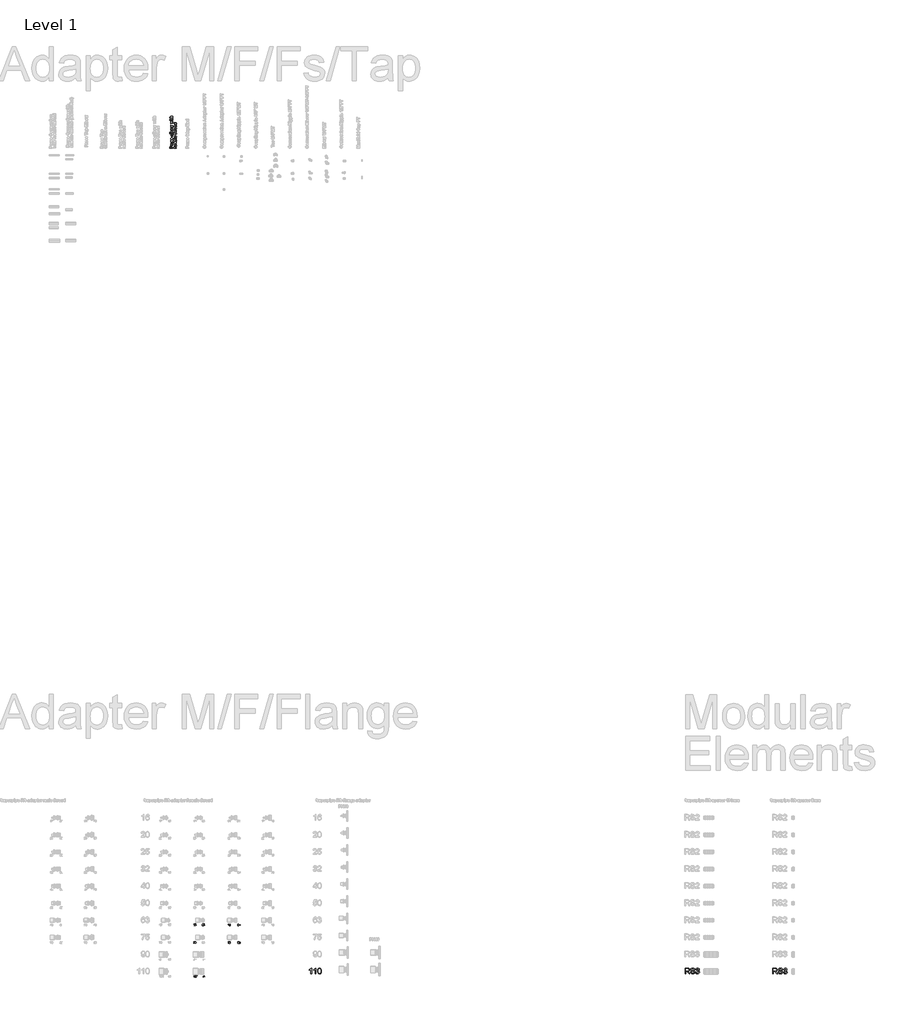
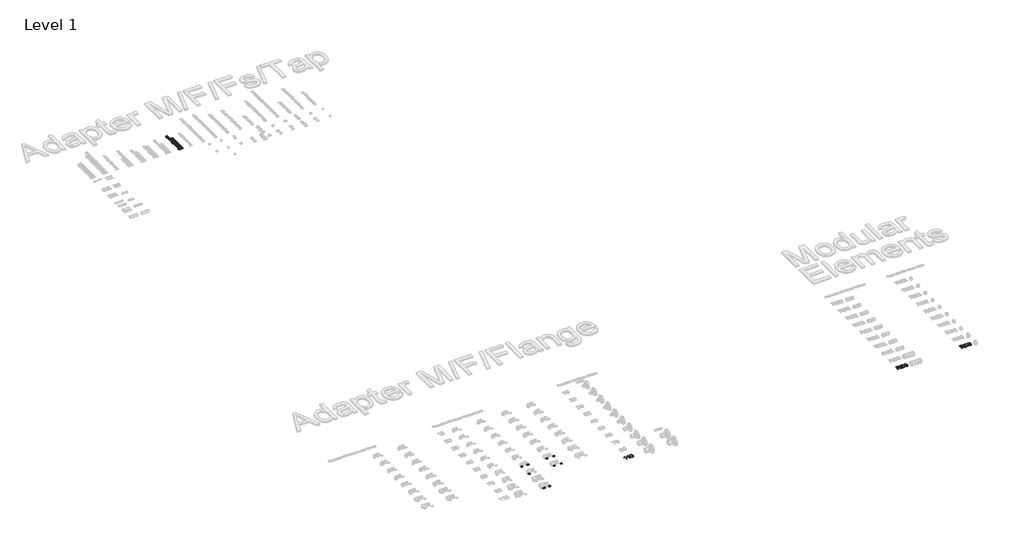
# One storey, part 46 of 58: 13 proxies.
"""IFC4 building model written with IfcOpenShell, lengths in millimetres."""

from ifc_helpers import new_model, si_unit, frame, origin, place, context, project, spatial, polyline, outline, extrude, element, save

model = new_model("IFC4")

# Units and contexts
model_context = context("Model", 3, world=origin())
ifc_project = project(units=[si_unit("LENGTHUNIT", "METRE", prefix="MILLI")], contexts=[model_context])

# Site, building, storey
site = spatial("IfcSite", under=ifc_project)
building = spatial("IfcBuilding", under=site)
storey = spatial("IfcBuildingStorey", under=building, Name="Level 1", Elevation=27.3876384)

# Proxies
placement = place(None, origin())
element("IfcBuildingElementProxy", 1, Name="100mm Arial", ObjectType="100mm Arial", at=placement, inside=storey, context=model_context, shape_type="SweptSolid", body=[
    extrude(outline(polyline([(34274.6585102, 15906.196048), (34262.1014715, 15906.196048), (34262.1014715, 15984.4813365), (34250.2066203, 15976.0077879), (34236.9873939, 15969.6679549), (34236.9873939, 15981.5382806), (34255.3937564, 15993.285979), (34266.5651063, 16006.6523581), (34274.6585102, 16006.6523581), (34274.6585102, 15906.196048)])), frame((0.0, 0.0, 27.3876384), z_axis=(0.0, 0.0, 1.0), x_axis=(1.0, 0.0, 0.0)), (0.0, 0.0, 1.0), 2.0),
    extrude(outline(polyline([(34351.5703727, 15906.196048), (34339.0133339, 15906.196048), (34339.0133339, 15984.4813365), (34327.1184827, 15976.0077879), (34313.8992564, 15969.6679549), (34313.8992564, 15981.5382806), (34332.3056189, 15993.285979), (34343.4769688, 16006.6523581), (34351.5703727, 16006.6523581), (34351.5703727, 15906.196048)])), frame((0.0, 0.0, 27.3876384), z_axis=(0.0, 0.0, 1.0), x_axis=(1.0, 0.0, 0.0)), (0.0, 0.0, 1.0), 2.0),
    extrude(outline(polyline([(34381.3933398, 15955.6148627), (34385.0844224, 15984.5181247), (34396.0473059, 16001.1831791), (34414.3555665, 16006.6523581), (34429.0217954, 16003.4149966), (34439.150813, 15994.0830566), (34445.0369249, 15979.220624), (34447.3177933, 15955.6148627), (34443.6634988, 15926.8342279), (34432.7374036, 15910.1323853), (34424.5060439, 15906.0029099), (34414.3555665, 15904.6264181), (34401.3080184, 15907.0176511), (34391.39973, 15914.19135), (34383.8949373, 15931.1813668), (34381.3933398, 15955.6148627)]), holes=[polyline([(34393.9503785, 15955.6393881), (34395.4219065, 15935.8871907), (34399.8364905, 15924.4552577), (34406.4093154, 15919.0014071), (34414.3555665, 15917.1834569), (34422.3018176, 15919.0075385), (34428.8746426, 15924.4797831), (34433.2892265, 15935.9178475), (34434.7607545, 15955.6393881), (34433.3382775, 15974.9470615), (34429.0708463, 15986.4678993), (34422.5102841, 15992.1884643), (34414.2084137, 15994.0953193), (34406.3480018, 15992.4153249), (34400.0326942, 15987.3753416), (34395.4709574, 15975.1371339), (34393.9503785, 15955.6393881)])]), frame((0.0, 0.0, 27.3876384), z_axis=(0.0, 0.0, 1.0), x_axis=(1.0, 0.0, 0.0)), (0.0, 0.0, 1.0), 2.0),
])
element("IfcBuildingElementProxy", 2, Name="100mm Arial", ObjectType="100mm Arial", at=placement, inside=storey, context=model_context, shape_type="SweptSolid", body=[
    extrude(outline(polyline([(40833.0377582, 15906.196048), (40833.0377582, 16006.6523581), (40876.3252063, 16006.6523581), (40896.423826, 16003.9422941), (40907.4112349, 15994.3528367), (40911.5192505, 15979.1593103), (40909.8177963, 15969.2632847), (40904.7134336, 15961.0595162), (40896.0528783, 15955.0446456), (40883.6828462, 15951.7153135), (40890.8197569, 15946.3442364), (40900.9978255, 15933.4193156), (40917.748719, 15906.196048), (40903.1560665, 15906.196048), (40890.0839929, 15927.0181689), (40880.6416884, 15940.801481), (40874.0075498, 15947.3129923), (40868.0355987, 15949.7042253), (40860.7515352, 15950.1456837), (40845.594797, 15950.1456837), (40845.594797, 15906.196048), (40833.0377582, 15906.196048)]), holes=[polyline([(40845.594797, 15962.7027224), (40873.7009814, 15962.7027224), (40888.0361165, 15964.4808187), (40896.1785713, 15970.1707269), (40898.9622118, 15978.6933265), (40893.6524483, 15989.7543118), (40876.8647666, 15994.0953193), (40845.594797, 15994.0953193), (40845.594797, 15962.7027224)])]), frame((0.0, 0.0, 27.3876384), z_axis=(0.0, 0.0, 1.0), x_axis=(1.0, 0.0, 0.0)), (0.0, 0.0, 1.0), 2.0),
    extrude(outline(polyline([(40928.7851788, 15940.7279046), (40941.3422176, 15940.7279046), (40945.3889196, 15928.1586031), (40955.2726825, 15920.212352), (40970.3313188, 15917.1834569), (40983.4524433, 15919.476588), (40991.9259919, 15925.7796328), (40994.7096324, 15934.2041305), (40992.6249677, 15942.040017), (40984.0901055, 15947.742188), (40965.8063703, 15952.5369166), (40946.1246835, 15958.7295969), (40935.443843, 15968.0737996), (40931.9244385, 15980.5572619), (40936.2777088, 15994.7697697), (40948.9941631, 16004.8006854), (40967.6089921, 16008.221988), (40987.4746198, 16004.6412699), (41000.7183716, 15994.1198448), (41005.6970413, 15978.3990209), (40993.1400025, 15978.3990209), (40990.8346087, 15985.8915509), (40986.0276173, 15991.2994162), (40968.0995014, 15995.6649492), (40950.1223346, 15991.3484671), (40944.4814773, 15980.9251439), (40948.4791283, 15972.2186034), (40968.9824182, 15965.20432), (40991.2024907, 15958.9012751), (41003.3548593, 15948.7232066), (41007.2666711, 15934.5229616), (41002.7662481, 15919.5011135), (40989.8168018, 15908.53823), (40970.8218282, 15904.6264181), (40948.3932892, 15908.8447983), (40934.2053069, 15921.5489899), (40928.7851788, 15940.7279046)])), frame((0.0, 0.0, 27.3876384), z_axis=(0.0, 0.0, 1.0), x_axis=(1.0, 0.0, 0.0)), (0.0, 0.0, 1.0), 2.0),
    extrude(outline(polyline([(41021.3933398, 15932.8797554), (41033.9503785, 15934.4493852), (41040.8788228, 15921.2301588), (41053.8405317, 15917.1834569), (41062.4489704, 15918.5752771), (41069.0953718, 15922.7507378), (41074.7607545, 15936.5340498), (41069.1444227, 15949.5202843), (41054.8706013, 15954.6583695), (41046.0659589, 15953.2849434), (41047.4639105, 15965.8419821), (41049.4749987, 15965.6948293), (41063.7242947, 15969.3000729), (41068.4699724, 15973.8740723), (41070.051865, 15980.3855837), (41065.4656028, 15990.2080329), (41053.644328, 15994.0953193), (41041.6759004, 15990.1712447), (41035.5200084, 15978.3990209), (41022.9629696, 15979.9686507), (41026.6601837, 15991.2442339), (41033.23914, 15999.6626002), (41042.2399862, 16004.9049186), (41053.2028696, 16006.6523581), (41068.3473451, 16003.2065301), (41078.9423465, 15993.788751), (41082.6089038, 15981.1213477), (41079.1262875, 15969.5453275), (41068.8255917, 15961.2311944), (41082.5108019, 15952.6472812), (41087.3177933, 15936.3133206), (41084.9142976, 15924.0751129), (41077.7038105, 15913.8479935), (41066.8206348, 15906.931812), (41053.3990733, 15904.6264181), (41041.2589675, 15906.5945868), (41031.3752046, 15912.4990928), (41024.5019426, 15921.5305958), (41021.3933398, 15932.8797554)])), frame((0.0, 0.0, 27.3876384), z_axis=(0.0, 0.0, 1.0), x_axis=(1.0, 0.0, 0.0)), (0.0, 0.0, 1.0), 2.0),
])
element("IfcBuildingElementProxy", 3, Name="100mm Arial", ObjectType="100mm Arial", at=placement, inside=storey, context=model_context, shape_type="SweptSolid", body=[
    extrude(outline(polyline([(42373.0377582, 15906.196048), (42373.0377582, 16006.6523581), (42416.3252063, 16006.6523581), (42436.423826, 16003.9422941), (42447.4112349, 15994.3528367), (42451.5192505, 15979.1593103), (42449.8177963, 15969.2632847), (42444.7134336, 15961.0595162), (42436.0528783, 15955.0446456), (42423.6828462, 15951.7153135), (42430.8197569, 15946.3442364), (42440.9978255, 15933.4193156), (42457.748719, 15906.196048), (42443.1560665, 15906.196048), (42430.0839929, 15927.0181689), (42420.6416884, 15940.801481), (42414.0075498, 15947.3129923), (42408.0355987, 15949.7042253), (42400.7515352, 15950.1456837), (42385.594797, 15950.1456837), (42385.594797, 15906.196048), (42373.0377582, 15906.196048)]), holes=[polyline([(42385.594797, 15962.7027224), (42413.7009814, 15962.7027224), (42428.0361165, 15964.4808187), (42436.1785713, 15970.1707269), (42438.9622118, 15978.6933265), (42433.6524483, 15989.7543118), (42416.8647666, 15994.0953193), (42385.594797, 15994.0953193), (42385.594797, 15962.7027224)])]), frame((0.0, 0.0, 27.3876384), z_axis=(0.0, 0.0, 1.0), x_axis=(1.0, 0.0, 0.0)), (0.0, 0.0, 1.0), 2.0),
    extrude(outline(polyline([(42468.7851788, 15940.7279046), (42481.3422176, 15940.7279046), (42485.3889196, 15928.1586031), (42495.2726825, 15920.212352), (42510.3313188, 15917.1834569), (42523.4524433, 15919.476588), (42531.9259919, 15925.7796328), (42534.7096324, 15934.2041305), (42532.6249677, 15942.040017), (42524.0901055, 15947.742188), (42505.8063703, 15952.5369166), (42486.1246835, 15958.7295969), (42475.443843, 15968.0737996), (42471.9244385, 15980.5572619), (42476.2777088, 15994.7697697), (42488.9941631, 16004.8006854), (42507.6089921, 16008.221988), (42527.4746198, 16004.6412699), (42540.7183716, 15994.1198448), (42545.6970413, 15978.3990209), (42533.1400025, 15978.3990209), (42530.8346087, 15985.8915509), (42526.0276173, 15991.2994162), (42508.0995014, 15995.6649492), (42490.1223346, 15991.3484671), (42484.4814773, 15980.9251439), (42488.4791283, 15972.2186034), (42508.9824182, 15965.20432), (42531.2024907, 15958.9012751), (42543.3548593, 15948.7232066), (42547.2666711, 15934.5229616), (42542.7662481, 15919.5011135), (42529.8168018, 15908.53823), (42510.8218282, 15904.6264181), (42488.3932892, 15908.8447983), (42474.2053069, 15921.5489899), (42468.7851788, 15940.7279046)])), frame((0.0, 0.0, 27.3876384), z_axis=(0.0, 0.0, 1.0), x_axis=(1.0, 0.0, 0.0)), (0.0, 0.0, 1.0), 2.0),
    extrude(outline(polyline([(42561.3933398, 15932.8797554), (42573.9503785, 15934.4493852), (42580.8788228, 15921.2301588), (42593.8405317, 15917.1834569), (42602.4489704, 15918.5752771), (42609.0953718, 15922.7507378), (42614.7607545, 15936.5340498), (42609.1444227, 15949.5202843), (42594.8706013, 15954.6583695), (42586.0659589, 15953.2849434), (42587.4639105, 15965.8419821), (42589.4749987, 15965.6948293), (42603.7242947, 15969.3000729), (42608.4699724, 15973.8740723), (42610.051865, 15980.3855837), (42605.4656028, 15990.2080329), (42593.644328, 15994.0953193), (42581.6759004, 15990.1712447), (42575.5200084, 15978.3990209), (42562.9629696, 15979.9686507), (42566.6601837, 15991.2442339), (42573.23914, 15999.6626002), (42582.2399862, 16004.9049186), (42593.2028696, 16006.6523581), (42608.3473451, 16003.2065301), (42618.9423465, 15993.788751), (42622.6089038, 15981.1213477), (42619.1262875, 15969.5453275), (42608.8255917, 15961.2311944), (42622.5108019, 15952.6472812), (42627.3177933, 15936.3133206), (42624.9142976, 15924.0751129), (42617.7038105, 15913.8479935), (42606.8206348, 15906.931812), (42593.3990733, 15904.6264181), (42581.2589675, 15906.5945868), (42571.3752046, 15912.4990928), (42564.5019426, 15921.5305958), (42561.3933398, 15932.8797554)])), frame((0.0, 0.0, 27.3876384), z_axis=(0.0, 0.0, 1.0), x_axis=(1.0, 0.0, 0.0)), (0.0, 0.0, 1.0), 2.0),
])
element("IfcBuildingElementProxy", 4, Name="30mm Arial", ObjectType="30mm Arial", at=placement, inside=storey, context=model_context, shape_type="SweptSolid", body=[
    extrude(outline(polyline([(32826.8418771, 16771.7106348), (32823.0747655, 16771.2397458), (32821.6473834, 16774.381458), (32817.8729141, 16775.9486353), (32814.4736845, 16775.036288), (32811.9021893, 16771.6113066), (32810.8316527, 16764.8974602), (32814.1536271, 16767.9030561), (32818.2702266, 16768.885301), (32824.6713734, 16766.1997625), (32827.3127661, 16759.261508), (32826.0693249, 16754.0633355), (32822.6480224, 16750.3845155), (32817.711046, 16749.107965), (32810.0333488, 16752.4924793), (32807.0645411, 16763.6466614), (32810.3607637, 16776.2797291), (32818.1083586, 16779.715747), (32824.0606892, 16777.589389), (32826.8418771, 16771.7106348)]), holes=[polyline([(32810.8316527, 16759.3203692), (32811.703533, 16756.0572559), (32814.0211896, 16753.6880958), (32817.4167404, 16752.8750766), (32821.8570761, 16754.5599761), (32823.5456545, 16759.1364282), (32821.879149, 16763.5179027), (32817.26223, 16765.1181894), (32812.7041721, 16763.5179027), (32810.8316527, 16759.3203692)])]), frame((0.0, 0.0, 27.3876384), z_axis=(0.0, 0.0, 1.0), x_axis=(1.0, 0.0, 0.0)), (0.0, 0.0, 1.0), 2.0),
    extrude(outline(polyline([(32830.6089888, 16757.5839661), (32834.3761004, 16758.0548551), (32836.4546337, 16754.0890872), (32840.3431464, 16752.8750766), (32844.9195984, 16754.5452609), (32846.6192132, 16758.6802545), (32844.9343137, 16762.5761248), (32840.6521672, 16764.1175504), (32838.0107745, 16763.7055225), (32838.43016, 16767.4726342), (32843.3082752, 16768.5100614), (32845.2065463, 16771.8357146), (32843.8306677, 16774.7824494), (32840.2842852, 16775.9486353), (32836.693757, 16774.771413), (32834.8469893, 16771.2397458), (32831.0798777, 16771.7106348), (32834.1627288, 16777.6188196), (32840.1518477, 16779.715747), (32844.6951904, 16778.6819986), (32847.8736908, 16775.8566648), (32848.973658, 16772.0564438), (32847.9288731, 16768.5836378), (32844.8386643, 16766.0893979), (32848.9442274, 16763.5142239), (32850.3863248, 16758.6140357), (32847.50213, 16751.8744376), (32840.2107088, 16749.107965), (32833.6035482, 16751.4697674), (32830.6089888, 16757.5839661)])), frame((0.0, 0.0, 27.3876384), z_axis=(0.0, 0.0, 1.0), x_axis=(1.0, 0.0, 0.0)), (0.0, 0.0, 1.0), 2.0),
])
element("IfcBuildingElementProxy", 5, Name="30mm Arial", ObjectType="30mm Arial", at=placement, inside=storey, context=model_context, shape_type="SweptSolid", body=[
    extrude(outline(polyline([(32976.28543, 16757.5839661), (32980.0525417, 16758.0548551), (32981.9508128, 16754.1737001), (32985.8871501, 16752.8750766), (32990.6107549, 16754.6813772), (32992.2956545, 16759.4748796), (32990.7174407, 16763.9483247), (32985.9460112, 16765.5890784), (32982.6387521, 16764.9342484), (32980.5234306, 16763.2346336), (32976.756319, 16763.7055225), (32980.0525417, 16779.244858), (32994.6500992, 16779.244858), (32994.6500992, 16775.4777464), (32983.0986046, 16775.4777464), (32981.4872814, 16767.1783286), (32986.9981537, 16769.35619), (32993.4397675, 16766.6559361), (32996.0627661, 16759.7103241), (32993.7009637, 16752.7205662), (32985.8724348, 16749.107965), (32979.2248072, 16751.4293004), (32976.28543, 16757.5839661)])), frame((0.0, 0.0, 27.3876384), z_axis=(0.0, 0.0, 1.0), x_axis=(1.0, 0.0, 0.0)), (0.0, 0.0, 1.0), 2.0),
    extrude(outline(polyline([(32999.3589888, 16764.4044983), (33000.4663136, 16773.075477), (33003.7551786, 16778.0749933), (33009.2476568, 16779.715747), (33013.6475255, 16778.7445385), (33016.6862307, 16775.9449565), (33018.4520643, 16771.4862267), (33019.1363248, 16764.4044983), (33018.0400365, 16755.7703079), (33014.7622079, 16750.7597551), (33009.2476568, 16749.107965), (33002.3609058, 16751.9774445), (32999.3589888, 16764.4044983)]), holes=[polyline([(33003.1261004, 16764.411856), (33004.891934, 16755.0566168), (33009.2476568, 16752.8750766), (33013.6033796, 16755.0639745), (33015.3692132, 16764.411856), (33013.6622407, 16773.6604093), (33009.203511, 16775.9486353), (33004.9507951, 16773.932642), (33003.1261004, 16764.411856)])]), frame((0.0, 0.0, 27.3876384), z_axis=(0.0, 0.0, 1.0), x_axis=(1.0, 0.0, 0.0)), (0.0, 0.0, 1.0), 2.0),
])
element("IfcBuildingElementProxy", 6, Name="30mm Arial", ObjectType="30mm Arial", at=placement, inside=storey, context=model_context, shape_type="SweptSolid", body=[
    extrude(outline(polyline([(32807.53543, 16465.3277464), (32807.53543, 16469.094858), (32827.3127661, 16469.094858), (32827.3127661, 16466.0487951), (32821.7025657, 16457.9443547), (32817.4093828, 16447.6179071), (32816.0114312, 16439.4288539), (32812.2443196, 16439.4288539), (32813.7415993, 16447.926928), (32817.8508412, 16457.5323269), (32823.5456545, 16465.3277464), (32807.53543, 16465.3277464)])), frame((0.0, 0.0, 27.3876384), z_axis=(0.0, 0.0, 1.0), x_axis=(1.0, 0.0, 0.0)), (0.0, 0.0, 1.0), 2.0),
    extrude(outline(polyline([(32830.6089888, 16447.4339661), (32834.3761004, 16447.9048551), (32836.2743715, 16444.0237001), (32840.2107088, 16442.7250766), (32844.9343137, 16444.5313772), (32846.6192132, 16449.3248796), (32845.0409994, 16453.7983247), (32840.26957, 16455.4390784), (32836.9623108, 16454.7842484), (32834.8469893, 16453.0846336), (32831.0798777, 16453.5555225), (32834.3761004, 16469.094858), (32848.973658, 16469.094858), (32848.973658, 16465.3277464), (32837.4221633, 16465.3277464), (32835.8108402, 16457.0283286), (32841.3217125, 16459.20619), (32847.7633262, 16456.5059361), (32850.3863248, 16449.5603241), (32848.0245224, 16442.5705662), (32840.1959936, 16438.957965), (32833.5483659, 16441.2793004), (32830.6089888, 16447.4339661)])), frame((0.0, 0.0, 27.3876384), z_axis=(0.0, 0.0, 1.0), x_axis=(1.0, 0.0, 0.0)), (0.0, 0.0, 1.0), 2.0),
])
element("IfcBuildingElementProxy", 7, Name="30mm Arial", ObjectType="30mm Arial", at=placement, inside=storey, context=model_context, shape_type="SweptSolid", body=[
    extrude(outline(polyline([(32976.28543, 16447.4339661), (32980.0525417, 16447.9048551), (32981.9508128, 16444.0237001), (32985.8871501, 16442.7250766), (32990.6107549, 16444.5313772), (32992.2956545, 16449.3248796), (32990.7174407, 16453.7983247), (32985.9460112, 16455.4390784), (32982.6387521, 16454.7842484), (32980.5234306, 16453.0846336), (32976.756319, 16453.5555225), (32980.0525417, 16469.094858), (32994.6500992, 16469.094858), (32994.6500992, 16465.3277464), (32983.0986046, 16465.3277464), (32981.4872814, 16457.0283286), (32986.9981537, 16459.20619), (32993.4397675, 16456.5059361), (32996.0627661, 16449.5603241), (32993.7009637, 16442.5705662), (32985.8724348, 16438.957965), (32979.2248072, 16441.2793004), (32976.28543, 16447.4339661)])), frame((0.0, 0.0, 27.3876384), z_axis=(0.0, 0.0, 1.0), x_axis=(1.0, 0.0, 0.0)), (0.0, 0.0, 1.0), 2.0),
    extrude(outline(polyline([(32999.3589888, 16454.2544983), (33000.4663136, 16462.925477), (33003.7551786, 16467.9249933), (33009.2476568, 16469.565747), (33013.6475255, 16468.5945385), (33016.6862307, 16465.7949565), (33018.4520643, 16461.3362267), (33019.1363248, 16454.2544983), (33018.0400365, 16445.6203079), (33014.7622079, 16440.6097551), (33009.2476568, 16438.957965), (33002.3609058, 16441.8274445), (32999.3589888, 16454.2544983)]), holes=[polyline([(33003.1261004, 16454.261856), (33004.891934, 16444.9066168), (33009.2476568, 16442.7250766), (33013.6033796, 16444.9139745), (33015.3692132, 16454.261856), (33013.6622407, 16463.5104093), (33009.203511, 16465.7986353), (33004.9507951, 16463.782642), (33003.1261004, 16454.261856)])]), frame((0.0, 0.0, 27.3876384), z_axis=(0.0, 0.0, 1.0), x_axis=(1.0, 0.0, 0.0)), (0.0, 0.0, 1.0), 2.0),
])
element("IfcBuildingElementProxy", 8, Name="30mm Arial", ObjectType="30mm Arial", at=placement, inside=storey, context=model_context, shape_type="SweptSolid", body=[
    extrude(outline(polyline([(32221.8418771, 16775.7106348), (32218.0747655, 16775.2397458), (32216.6473834, 16778.381458), (32212.8729141, 16779.9486353), (32209.4736845, 16779.036288), (32206.9021893, 16775.6113066), (32205.8316527, 16768.8974602), (32209.1536271, 16771.9030561), (32213.2702266, 16772.885301), (32219.6713734, 16770.1997625), (32222.3127661, 16763.261508), (32221.0693249, 16758.0633355), (32217.6480224, 16754.3845155), (32212.711046, 16753.107965), (32205.0333488, 16756.4924793), (32202.0645411, 16767.6466614), (32205.3607637, 16780.2797291), (32213.1083586, 16783.715747), (32219.0606892, 16781.589389), (32221.8418771, 16775.7106348)]), holes=[polyline([(32205.8316527, 16763.3203692), (32206.703533, 16760.0572559), (32209.0211896, 16757.6880958), (32212.4167404, 16756.8750766), (32216.8570761, 16758.5599761), (32218.5456545, 16763.1364282), (32216.879149, 16767.5179027), (32212.26223, 16769.1181894), (32207.7041721, 16767.5179027), (32205.8316527, 16763.3203692)])]), frame((0.0, 0.0, 27.3876384), z_axis=(0.0, 0.0, 1.0), x_axis=(1.0, 0.0, 0.0)), (0.0, 0.0, 1.0), 2.0),
    extrude(outline(polyline([(32225.6089888, 16761.5839661), (32229.3761004, 16762.0548551), (32231.4546337, 16758.0890872), (32235.3431464, 16756.8750766), (32239.9195984, 16758.5452609), (32241.6192132, 16762.6802545), (32239.9343137, 16766.5761248), (32235.6521672, 16768.1175504), (32233.0107745, 16767.7055225), (32233.43016, 16771.4726342), (32238.3082752, 16772.5100614), (32240.2065463, 16775.8357146), (32238.8306677, 16778.7824494), (32235.2842852, 16779.9486353), (32231.693757, 16778.771413), (32229.8469893, 16775.2397458), (32226.0798777, 16775.7106348), (32229.1627288, 16781.6188196), (32235.1518477, 16783.715747), (32239.6951904, 16782.6819986), (32242.8736908, 16779.8566648), (32243.973658, 16776.0564438), (32242.9288731, 16772.5836378), (32239.8386643, 16770.0893979), (32243.9442274, 16767.5142239), (32245.3863248, 16762.6140357), (32242.50213, 16755.8744376), (32235.2107088, 16753.107965), (32228.6035482, 16755.4697674), (32225.6089888, 16761.5839661)])), frame((0.0, 0.0, 27.3876384), z_axis=(0.0, 0.0, 1.0), x_axis=(1.0, 0.0, 0.0)), (0.0, 0.0, 1.0), 2.0),
])
element("IfcBuildingElementProxy", 9, Name="30mm Arial", ObjectType="30mm Arial", at=placement, inside=storey, context=model_context, shape_type="SweptSolid", body=[
    extrude(outline(polyline([(32370.5918771, 16757.3459656), (32370.5918771, 16753.5788539), (32350.8145411, 16753.5788539), (32351.2192113, 16756.1761008), (32353.5074373, 16760.1749781), (32358.2236845, 16764.5417374), (32364.7278381, 16770.8178042), (32366.3538765, 16775.0852354), (32364.8198086, 16778.5396473), (32360.8135737, 16779.9486353), (32356.6381131, 16778.5727567), (32355.0525417, 16774.7688569), (32351.28543, 16775.2397458), (32354.1733037, 16781.5452432), (32360.8945077, 16783.715747), (32367.6377847, 16781.3024411), (32370.1209882, 16775.3133222), (32369.4514429, 16771.741188), (32367.2257569, 16768.0476528), (32361.828928, 16762.8862684), (32357.4952781, 16759.2626308), (32355.7956633, 16757.3459656), (32370.5918771, 16757.3459656)])), frame((0.0, 0.0, 27.3876384), z_axis=(0.0, 0.0, 1.0), x_axis=(1.0, 0.0, 0.0)), (0.0, 0.0, 1.0), 2.0),
    extrude(outline(polyline([(32374.3589888, 16761.5839661), (32378.1261004, 16762.0548551), (32380.0243715, 16758.1737001), (32383.9607088, 16756.8750766), (32388.6843137, 16758.6813772), (32390.3692132, 16763.4748796), (32388.7909994, 16767.9483247), (32384.01957, 16769.5890784), (32380.7123108, 16768.9342484), (32378.5969893, 16767.2346336), (32374.8298777, 16767.7055225), (32378.1261004, 16783.244858), (32392.723658, 16783.244858), (32392.723658, 16779.4777464), (32381.1721633, 16779.4777464), (32379.5608402, 16771.1783286), (32385.0717125, 16773.35619), (32391.5133262, 16770.6559361), (32394.1363248, 16763.7103241), (32391.7745224, 16756.7205662), (32383.9459936, 16753.107965), (32377.2983659, 16755.4293004), (32374.3589888, 16761.5839661)])), frame((0.0, 0.0, 27.3876384), z_axis=(0.0, 0.0, 1.0), x_axis=(1.0, 0.0, 0.0)), (0.0, 0.0, 1.0), 2.0),
])
element("IfcBuildingElementProxy", 10, Name="30mm Arial", ObjectType="30mm Arial", at=placement, inside=storey, context=model_context, shape_type="SweptSolid", body=[
    extrude(outline(polyline([(32202.53543, 16469.4777464), (32202.53543, 16473.244858), (32222.3127661, 16473.244858), (32222.3127661, 16470.1987951), (32216.7025657, 16462.0943547), (32212.4093828, 16451.7679071), (32211.0114312, 16443.5788539), (32207.2443196, 16443.5788539), (32208.7415993, 16452.076928), (32212.8508412, 16461.6823269), (32218.5456545, 16469.4777464), (32202.53543, 16469.4777464)])), frame((0.0, 0.0, 27.3876384), z_axis=(0.0, 0.0, 1.0), x_axis=(1.0, 0.0, 0.0)), (0.0, 0.0, 1.0), 2.0),
    extrude(outline(polyline([(32225.6089888, 16451.5839661), (32229.3761004, 16452.0548551), (32231.2743715, 16448.1737001), (32235.2107088, 16446.8750766), (32239.9343137, 16448.6813772), (32241.6192132, 16453.4748796), (32240.0409994, 16457.9483247), (32235.26957, 16459.5890784), (32231.9623108, 16458.9342484), (32229.8469893, 16457.2346336), (32226.0798777, 16457.7055225), (32229.3761004, 16473.244858), (32243.973658, 16473.244858), (32243.973658, 16469.4777464), (32232.4221633, 16469.4777464), (32230.8108402, 16461.1783286), (32236.3217125, 16463.35619), (32242.7633262, 16460.6559361), (32245.3863248, 16453.7103241), (32243.0245224, 16446.7205662), (32235.1959936, 16443.107965), (32228.5483659, 16445.4293004), (32225.6089888, 16451.5839661)])), frame((0.0, 0.0, 27.3876384), z_axis=(0.0, 0.0, 1.0), x_axis=(1.0, 0.0, 0.0)), (0.0, 0.0, 1.0), 2.0),
])
element("IfcBuildingElementProxy", 11, Name="30mm Arial", ObjectType="30mm Arial", at=placement, inside=storey, context=model_context, shape_type="SweptSolid", body=[
    extrude(outline(polyline([(32216.6620986, 15843.5788539), (32212.894987, 15843.5788539), (32212.894987, 15867.0644405), (32209.3265317, 15864.5223759), (32205.3607637, 15862.620426), (32205.3607637, 15866.1815237), (32210.8826725, 15869.7058332), (32214.2340775, 15873.715747), (32216.6620986, 15873.715747), (32216.6620986, 15843.5788539)])), frame((0.0, 0.0, 27.3876384), z_axis=(0.0, 0.0, 1.0), x_axis=(1.0, 0.0, 0.0)), (0.0, 0.0, 1.0), 2.0),
    extrude(outline(polyline([(32239.7356574, 15843.5788539), (32235.9685457, 15843.5788539), (32235.9685457, 15867.0644405), (32232.4000904, 15864.5223759), (32228.4343225, 15862.620426), (32228.4343225, 15866.1815237), (32233.9562312, 15869.7058332), (32237.3076362, 15873.715747), (32239.7356574, 15873.715747), (32239.7356574, 15843.5788539)])), frame((0.0, 0.0, 27.3876384), z_axis=(0.0, 0.0, 1.0), x_axis=(1.0, 0.0, 0.0)), (0.0, 0.0, 1.0), 2.0),
    extrude(outline(polyline([(32248.6825475, 15858.4044983), (32249.7898723, 15867.075477), (32253.0787373, 15872.0749933), (32258.5712155, 15873.715747), (32262.9710842, 15872.7445385), (32266.0097895, 15869.9449565), (32267.775623, 15865.4862267), (32268.4598836, 15858.4044983), (32267.3635952, 15849.7703079), (32264.0857666, 15844.7597551), (32258.5712155, 15843.107965), (32251.6844646, 15845.9774445), (32248.6825475, 15858.4044983)]), holes=[polyline([(32252.4496591, 15858.411856), (32254.2154927, 15849.0566168), (32258.5712155, 15846.8750766), (32262.9269384, 15849.0639745), (32264.6927719, 15858.411856), (32262.9857995, 15867.6604093), (32258.5270697, 15869.9486353), (32254.2743538, 15867.932642), (32252.4496591, 15858.411856)])]), frame((0.0, 0.0, 27.3876384), z_axis=(0.0, 0.0, 1.0), x_axis=(1.0, 0.0, 0.0)), (0.0, 0.0, 1.0), 2.0),
])
element("IfcBuildingElementProxy", 12, Name="30mm Arial", ObjectType="30mm Arial", at=placement, inside=storey, context=model_context, shape_type="SweptSolid", body=[
    extrude(outline(polyline([(32356.7742294, 15860.1776896), (32353.3418904, 15862.517419), (32352.2272079, 15866.1594508), (32354.6552291, 15871.5378856), (32361.1225946, 15873.715747), (32367.6488212, 15871.4863821), (32370.1209882, 15866.0564438), (32369.021021, 15862.5063826), (32365.6843313, 15860.1776896), (32369.6905662, 15857.2235971), (32371.0627661, 15852.3491607), (32368.3404393, 15845.7714306), (32361.1740981, 15843.107965), (32354.0077568, 15845.7824671), (32351.28543, 15852.4521677), (32352.7128122, 15857.4406475), (32356.7742294, 15860.1776896)]), holes=[polyline([(32355.0525417, 15852.5846052), (32355.6816199, 15849.748235), (32357.9073059, 15847.6255559), (32361.2035286, 15846.8750766), (32365.691689, 15848.4532904), (32367.2956545, 15852.4668829), (32365.6401855, 15856.5577307), (32361.0784487, 15858.1764115), (32356.6454707, 15856.5798036), (32355.0525417, 15852.5846052)]), polyline([(32355.9943196, 15866.0490862), (32357.3297312, 15863.091315), (32361.2182439, 15861.9435231), (32365.0295014, 15863.0839573), (32366.3538765, 15865.8798605), (32364.9853555, 15868.7750918), (32361.1740981, 15869.9486353), (32357.3518041, 15868.8008435), (32355.9943196, 15866.0490862)])]), frame((0.0, 0.0, 27.3876384), z_axis=(0.0, 0.0, 1.0), x_axis=(1.0, 0.0, 0.0)), (0.0, 0.0, 1.0), 2.0),
    extrude(outline(polyline([(32374.3589888, 15858.4044983), (32375.4663136, 15867.075477), (32378.7551786, 15872.0749933), (32384.2476568, 15873.715747), (32388.6475255, 15872.7445385), (32391.6862307, 15869.9449565), (32393.4520643, 15865.4862267), (32394.1363248, 15858.4044983), (32393.0400365, 15849.7703079), (32389.7622079, 15844.7597551), (32384.2476568, 15843.107965), (32377.3609058, 15845.9774445), (32374.3589888, 15858.4044983)]), holes=[polyline([(32378.1261004, 15858.411856), (32379.891934, 15849.0566168), (32384.2476568, 15846.8750766), (32388.6033796, 15849.0639745), (32390.3692132, 15858.411856), (32388.6622407, 15867.6604093), (32384.203511, 15869.9486353), (32379.9507951, 15867.932642), (32378.1261004, 15858.411856)])]), frame((0.0, 0.0, 27.3876384), z_axis=(0.0, 0.0, 1.0), x_axis=(1.0, 0.0, 0.0)), (0.0, 0.0, 1.0), 2.0),
])
element("IfcBuildingElementProxy", 13, Name="50mm Arial", ObjectType="50mm Arial", at=placement, inside=storey, context=model_context, shape_type="SweptSolid", body=[
    extrude(outline(polyline([(31839.1417262, 30406.1759681), (31788.1287562, 30406.1759681), (31788.1287562, 30422.6109503), (31788.8878778, 30434.7948516), (31793.8537981, 30442.1013968), (31803.7287046, 30445.0429929), (31811.5792869, 30443.3159913), (31816.5768373, 30438.9257382), (31818.9870483, 30433.516997), (31819.7082138, 30422.6995145), (31819.7082138, 30415.8927243), (31839.1417262, 30415.8927243), (31839.1417262, 30406.1759681)]), holes=[polyline([(31797.0357827, 30415.8927243), (31810.8011873, 30415.8927243), (31810.8011873, 30421.9277409), (31810.0420657, 30430.638661), (31807.6571588, 30434.0800121), (31803.8805289, 30435.3262367), (31799.5155798, 30433.5739311), (31797.3647354, 30429.1520479), (31797.0357827, 30421.2192274), (31797.0357827, 30415.8927243)])]), frame((0.0, 0.0, 27.3876384), z_axis=(0.0, 0.0, 1.0), x_axis=(1.0, 0.0, 0.0)), (0.0, 0.0, 1.0), 2.0),
    extrude(outline(polyline([(31839.1417262, 30462.8570459), (31839.1417262, 30453.1402897), (31801.8941608, 30453.1402897), (31801.8941608, 30462.8570459), (31807.0814916, 30462.8570459), (31802.2420915, 30466.741218), (31801.0844311, 30470.6633461), (31803.1340594, 30476.6224505), (31812.3826906, 30473.7883966), (31810.8011873, 30469.2842753), (31811.9082396, 30465.8619022), (31815.8999539, 30463.6604496), (31827.995291, 30462.8570459), (31839.1417262, 30462.8570459)])), frame((0.0, 0.0, 27.3876384), z_axis=(0.0, 0.0, 1.0), x_axis=(1.0, 0.0, 0.0)), (0.0, 0.0, 1.0), 2.0),
    extrude(outline(polyline([(31827.8055106, 30501.7240707), (31829.42497, 30511.4408269), (31837.2629003, 30505.6461988), (31839.9514559, 30495.7396622), (31838.3667896, 30487.5506382), (31833.6127907, 30481.8097813), (31820.7962881, 30478.2419099), (31806.32237, 30482.9737677), (31801.0844311, 30494.9425846), (31806.4615423, 30507.7590872), (31822.9471325, 30512.2505566), (31822.9471325, 30487.9586661), (31830.1081794, 30490.2486828), (31832.6638887, 30495.7017062), (31831.5125543, 30499.4340539), (31827.8055106, 30501.7240707)]), holes=[polyline([(31817.2790248, 30502.5338004), (31810.643037, 30500.3703039), (31808.3719982, 30495.3601015), (31810.7632312, 30490.1474666), (31817.2790248, 30488.1231424), (31817.2790248, 30502.5338004)])]), frame((0.0, 0.0, 27.3876384), z_axis=(0.0, 0.0, 1.0), x_axis=(1.0, 0.0, 0.0)), (0.0, 0.0, 1.0), 2.0),
    extrude(outline(polyline([(31828.6152403, 30515.4894753), (31826.9957809, 30525.2062315), (31831.2215577, 30527.6923546), (31832.6638887, 30532.9366195), (31831.2848179, 30538.5161631), (31828.7038045, 30539.7813658), (31826.8819127, 30539.1108084), (31825.604058, 30535.9351498), (31820.8468962, 30521.3726675), (31812.4839068, 30517.1089346), (31804.3739579, 30520.7653702), (31801.0844311, 30532.1142378), (31803.7413566, 30542.9823284), (31811.610917, 30547.8786626), (31813.2303763, 30538.1619064), (31809.6245488, 30536.2894065), (31808.3719982, 30532.3672784), (31809.4347685, 30527.7492888), (31811.4084846, 30526.8256908), (31813.1671162, 30527.7492888), (31815.8873019, 30536.3463406), (31820.2269469, 30546.61346), (31827.527166, 30549.4981219), (31836.2886943, 30545.3166273), (31839.9514559, 30532.9366195), (31836.9023175, 30521.1639091), (31828.6152403, 30515.4894753)])), frame((0.0, 0.0, 27.3876384), z_axis=(0.0, 0.0, 1.0), x_axis=(1.0, 0.0, 0.0)), (0.0, 0.0, 1.0), 2.0),
    extrude(outline(polyline([(31828.6152403, 30554.3565), (31826.9957809, 30564.0732562), (31831.2215577, 30566.5593794), (31832.6638887, 30571.8036443), (31831.2848179, 30577.3831879), (31828.7038045, 30578.6483905), (31826.8819127, 30577.9778331), (31825.604058, 30574.8021745), (31820.8468962, 30560.2396923), (31812.4839068, 30555.9759594), (31804.3739579, 30559.632395), (31801.0844311, 30570.9812626), (31803.7413566, 30581.8493532), (31811.610917, 30586.7456873), (31813.2303763, 30577.0289312), (31809.6245488, 30575.1564313), (31808.3719982, 30571.2343031), (31809.4347685, 30566.6163135), (31811.4084846, 30565.6927156), (31813.1671162, 30566.6163135), (31815.8873019, 30575.2133654), (31820.2269469, 30585.4804847), (31827.527166, 30588.3651467), (31836.2886943, 30584.183652), (31839.9514559, 30571.8036443), (31836.9023175, 30560.0309338), (31828.6152403, 30554.3565)])), frame((0.0, 0.0, 27.3876384), z_axis=(0.0, 0.0, 1.0), x_axis=(1.0, 0.0, 0.0)), (0.0, 0.0, 1.0), 2.0),
    extrude(outline(polyline([(31827.8055106, 30637.7586573), (31829.42497, 30647.4754135), (31837.2629003, 30641.6807855), (31839.9514559, 30631.7742489), (31838.3667896, 30623.5852249), (31833.6127907, 30617.844368), (31820.7962881, 30614.2764965), (31806.32237, 30619.0083544), (31801.0844311, 30630.9771712), (31806.4615423, 30643.7936739), (31822.9471325, 30648.2851432), (31822.9471325, 30623.9932527), (31830.1081794, 30626.2832695), (31832.6638887, 30631.7362928), (31831.5125543, 30635.4686406), (31827.8055106, 30637.7586573)]), holes=[polyline([(31817.2790248, 30638.568387), (31810.643037, 30636.4048905), (31808.3719982, 30631.3946881), (31810.7632312, 30626.1820533), (31817.2790248, 30624.1577291), (31817.2790248, 30638.568387)])]), frame((0.0, 0.0, 27.3876384), z_axis=(0.0, 0.0, 1.0), x_axis=(1.0, 0.0, 0.0)), (0.0, 0.0, 1.0), 2.0),
    extrude(outline(polyline([(31839.1417262, 30655.5727104), (31788.1287562, 30655.5727104), (31788.1287562, 30665.2894665), (31839.1417262, 30665.2894665), (31839.1417262, 30655.5727104)])), frame((0.0, 0.0, 27.3876384), z_axis=(0.0, 0.0, 1.0), x_axis=(1.0, 0.0, 0.0)), (0.0, 0.0, 1.0), 2.0),
    extrude(outline(polyline([(31839.1417262, 30675.0062227), (31788.1287562, 30675.0062227), (31788.1287562, 30684.7229789), (31806.1831977, 30684.7229789), (31801.0844311, 30695.2747689), (31806.0060693, 30706.2820317), (31820.1383827, 30710.6343288), (31834.8020812, 30706.3073358), (31839.9514559, 30695.806154), (31838.3952566, 30689.8154195), (31833.777267, 30684.7229789), (31839.1417262, 30684.7229789), (31839.1417262, 30675.0062227)]), holes=[polyline([(31819.80943, 30684.7229789), (31828.6152403, 30686.5195667), (31832.6638887, 30693.1998365), (31829.7918788, 30698.6591859), (31820.758332, 30700.9175726), (31811.2756383, 30698.6465339), (31808.3719982, 30692.8202758), (31811.2060521, 30687.0319737), (31819.80943, 30684.7229789)])]), frame((0.0, 0.0, 27.3876384), z_axis=(0.0, 0.0, 1.0), x_axis=(1.0, 0.0, 0.0)), (0.0, 0.0, 1.0), 2.0),
    extrude(outline(polyline([(31819.9865584, 30715.4927069), (31810.5038647, 30717.8902658), (31803.5009681, 30724.6780779), (31801.0844311, 30734.4833983), (31806.5627585, 30748.2045208), (31820.4167273, 30753.5500019), (31834.4035423, 30748.1475867), (31839.9514559, 30734.5593105), (31837.6424611, 30724.8868364), (31830.867301, 30717.8902658), (31819.9865584, 30715.4927069)]), holes=[polyline([(31820.5179435, 30725.2094631), (31829.5325122, 30727.8980186), (31832.6638887, 30734.5340064), (31829.5325122, 30741.1573422), (31820.4420313, 30743.8332457), (31811.5033747, 30741.1573422), (31808.3719982, 30734.5340064), (31811.5033747, 30727.8980186), (31820.5179435, 30725.2094631)])]), frame((0.0, 0.0, 27.3876384), z_axis=(0.0, 0.0, 1.0), x_axis=(1.0, 0.0, 0.0)), (0.0, 0.0, 1.0), 2.0),
    extrude(outline(polyline([(31839.1417262, 30768.6059132), (31801.8941608, 30756.7889207), (31801.8941608, 30766.3918086), (31826.2999195, 30773.3883792), (31801.8941608, 30779.9294768), (31801.8941608, 30789.671537), (31826.2999195, 30796.0608103), (31801.8941608, 30803.0826849), (31801.8941608, 30812.6602688), (31839.1417262, 30800.8685803), (31839.1417262, 30791.3289524), (31815.1914404, 30784.7245947), (31839.1417262, 30778.2847133), (31839.1417262, 30768.6059132)])), frame((0.0, 0.0, 27.3876384), z_axis=(0.0, 0.0, 1.0), x_axis=(1.0, 0.0, 0.0)), (0.0, 0.0, 1.0), 2.0),
    extrude(outline(polyline([(31839.1417262, 30844.7205034), (31801.8941608, 30832.9035108), (31801.8941608, 30842.5063988), (31826.2999195, 30849.5029693), (31801.8941608, 30856.0440669), (31801.8941608, 30865.7861271), (31826.2999195, 30872.1754004), (31801.8941608, 30879.197275), (31801.8941608, 30888.7748589), (31839.1417262, 30876.9831704), (31839.1417262, 30867.4435426), (31815.1914404, 30860.8391849), (31839.1417262, 30854.3993035), (31839.1417262, 30844.7205034)])), frame((0.0, 0.0, 27.3876384), z_axis=(0.0, 0.0, 1.0), x_axis=(1.0, 0.0, 0.0)), (0.0, 0.0, 1.0), 2.0),
    extrude(outline(polyline([(31797.0357827, 30893.633237), (31788.1287562, 30893.633237), (31788.1287562, 30903.3499932), (31797.0357827, 30903.3499932), (31797.0357827, 30893.633237)])), frame((0.0, 0.0, 27.3876384), z_axis=(0.0, 0.0, 1.0), x_axis=(1.0, 0.0, 0.0)), (0.0, 0.0, 1.0), 2.0),
    extrude(outline(polyline([(31839.1417262, 30893.633237), (31801.8941608, 30893.633237), (31801.8941608, 30903.3499932), (31839.1417262, 30903.3499932), (31839.1417262, 30893.633237)])), frame((0.0, 0.0, 27.3876384), z_axis=(0.0, 0.0, 1.0), x_axis=(1.0, 0.0, 0.0)), (0.0, 0.0, 1.0), 2.0),
    extrude(outline(polyline([(31801.8941608, 30930.8808024), (31809.1817279, 30930.8808024), (31809.1817279, 30923.5932353), (31825.1612371, 30923.5932353), (31830.8103669, 30923.8146457), (31832.1388296, 30924.8204818), (31832.6638887, 30926.7309378), (31831.7276388, 30931.2856672), (31838.6356451, 30931.6905321), (31839.9514559, 30923.7324076), (31839.04051, 30918.8234214), (31836.6872331, 30915.6161327), (31832.777757, 30914.1927797), (31825.7052743, 30913.8764791), (31809.1817279, 30913.8764791), (31809.1817279, 30909.018101), (31801.8941608, 30909.018101), (31801.8941608, 30913.8764791), (31794.6065936, 30913.8764791), (31788.9384859, 30923.5932353), (31801.8941608, 30923.5932353), (31801.8941608, 30930.8808024)])), frame((0.0, 0.0, 27.3876384), z_axis=(0.0, 0.0, 1.0), x_axis=(1.0, 0.0, 0.0)), (0.0, 0.0, 1.0), 2.0),
    extrude(outline(polyline([(31788.1287562, 30946.2656664), (31806.6007146, 30946.2656664), (31801.0844311, 30957.3867975), (31802.3433077, 30963.3838579), (31805.5695744, 30967.4072023), (31809.9155455, 30969.2543981), (31817.3043288, 30969.7478272), (31839.1417262, 30969.7478272), (31839.1417262, 30960.031071), (31819.328653, 30960.031071), (31811.8323274, 30959.4870338), (31809.3082482, 30957.5639259), (31808.3719982, 30954.1225747), (31809.5739407, 30949.8714939), (31813.1924203, 30947.1323302), (31820.3534671, 30946.2656664), (31839.1417262, 30946.2656664), (31839.1417262, 30936.5489102), (31788.1287562, 30936.5489102), (31788.1287562, 30946.2656664)])), frame((0.0, 0.0, 27.3876384), z_axis=(0.0, 0.0, 1.0), x_axis=(1.0, 0.0, 0.0)), (0.0, 0.0, 1.0), 2.0),
    extrude(outline(polyline([(31864.8498357, 30402.1273197), (31864.8498357, 30406.9856978), (31862.1296501, 30406.9856978), (31855.3355119, 30407.9725559), (31851.6854023, 30411.6036874), (31850.2747014, 30418.2966093), (31851.4892959, 30426.4192102), (31858.1063057, 30425.2046157), (31857.5622686, 30420.6878423), (31858.5364746, 30417.6323779), (31862.2814744, 30416.702454), (31864.8498357, 30416.702454), (31864.8498357, 30423.9900212), (31872.1374028, 30423.9900212), (31872.1374028, 30416.702454), (31902.0974011, 30416.702454), (31902.0974011, 30406.9856978), (31872.1374028, 30406.9856978), (31872.1374028, 30402.1273197), (31864.8498357, 30402.1273197)])), frame((0.0, 0.0, 27.3876384), z_axis=(0.0, 0.0, 1.0), x_axis=(1.0, 0.0, 0.0)), (0.0, 0.0, 1.0), 2.0),
    extrude(outline(polyline([(31890.7611855, 30450.7111007), (31892.3806449, 30460.4278569), (31900.2185752, 30454.6332288), (31902.9071308, 30444.7266922), (31901.3224645, 30436.5376682), (31896.5684656, 30430.7968113), (31883.751963, 30427.2289399), (31869.2780449, 30431.9607977), (31864.040106, 30443.9296146), (31869.4172172, 30456.7461172), (31885.9028074, 30461.2375866), (31885.9028074, 30436.9456961), (31893.0638543, 30439.2357128), (31895.6195636, 30444.6887362), (31894.4682292, 30448.4210839), (31890.7611855, 30450.7111007)]), holes=[polyline([(31880.2346997, 30451.5208304), (31873.5987119, 30449.3573339), (31871.3276732, 30444.3471315), (31873.7189061, 30439.1344966), (31880.2346997, 30437.1101724), (31880.2346997, 30451.5208304)])]), frame((0.0, 0.0, 27.3876384), z_axis=(0.0, 0.0, 1.0), x_axis=(1.0, 0.0, 0.0)), (0.0, 0.0, 1.0), 2.0),
    extrude(outline(polyline([(31864.8498357, 30467.715424), (31864.8498357, 30477.4321802), (31869.8347341, 30477.4321802), (31864.040106, 30488.3002708), (31865.463459, 30494.1138769), (31869.7714739, 30498.1561993), (31865.463459, 30503.324552), (31864.040106, 30509.2520263), (31865.7038475, 30516.0208604), (31870.5938556, 30520.170725), (31878.2989396, 30521.1575831), (31902.0974011, 30521.1575831), (31902.0974011, 30511.4408269), (31880.6522165, 30511.4408269), (31873.4532136, 30510.4539688), (31871.3276732, 30506.3800164), (31872.5992018, 30502.6160385), (31876.3252235, 30500.0729812), (31884.0809157, 30499.2948816), (31902.0974011, 30499.2948816), (31902.0974011, 30489.5781254), (31881.5378584, 30489.5781254), (31874.4717017, 30489.0720444), (31872.1057728, 30487.5095191), (31871.3276732, 30484.6311832), (31872.5612457, 30480.696403), (31876.1291171, 30478.1913018), (31883.8658312, 30477.4321802), (31902.0974011, 30477.4321802), (31902.0974011, 30467.715424), (31864.8498357, 30467.715424)])), frame((0.0, 0.0, 27.3876384), z_axis=(0.0, 0.0, 1.0), x_axis=(1.0, 0.0, 0.0)), (0.0, 0.0, 1.0), 2.0),
    extrude(outline(polyline([(31876.1860513, 30538.9716361), (31874.5665919, 30530.0646096), (31866.6211194, 30534.9546177), (31864.040106, 30545.2596931), (31865.6026313, 30554.5083244), (31869.5627155, 30558.7847092), (31878.3748518, 30560.0246078), (31889.8628917, 30560.0246078), (31897.0998507, 30560.5370149), (31902.0974011, 30562.4537969), (31902.0974011, 30552.7370407), (31899.0103067, 30551.8260948), (31901.6229501, 30546.2845073), (31902.9071308, 30540.376011), (31899.7884063, 30531.6397868), (31891.9125199, 30528.4451502), (31886.2950203, 30529.8685032), (31882.5120644, 30533.8602175), (31880.2220476, 30541.2616528), (31877.8055106, 30550.3078516), (31872.5802238, 30549.0995831), (31871.3276732, 30544.5511797), (31872.4030954, 30541.0212643), (31876.1860513, 30538.9716361)]), holes=[polyline([(31885.0930778, 30550.3078516), (31886.4405186, 30544.8295242), (31887.9777398, 30539.920538), (31891.0774862, 30538.1619064), (31894.2721228, 30539.5726073), (31895.6195636, 30543.1594568), (31894.0507124, 30547.8027504), (31891.1407463, 30549.9535949), (31886.8517094, 30550.3078516), (31885.0930778, 30550.3078516)])]), frame((0.0, 0.0, 27.3876384), z_axis=(0.0, 0.0, 1.0), x_axis=(1.0, 0.0, 0.0)), (0.0, 0.0, 1.0), 2.0),
    extrude(outline(polyline([(31902.0974011, 30569.741364), (31851.0844311, 30569.741364), (31851.0844311, 30579.4581202), (31902.0974011, 30579.4581202), (31902.0974011, 30569.741364)])), frame((0.0, 0.0, 27.3876384), z_axis=(0.0, 0.0, 1.0), x_axis=(1.0, 0.0, 0.0)), (0.0, 0.0, 1.0), 2.0),
    extrude(outline(polyline([(31890.7611855, 30610.2278481), (31892.3806449, 30619.9446043), (31900.2185752, 30614.1499763), (31902.9071308, 30604.2434397), (31901.3224645, 30596.0544157), (31896.5684656, 30590.3135588), (31883.751963, 30586.7456873), (31869.2780449, 30591.4775452), (31864.040106, 30603.446362), (31869.4172172, 30616.2628647), (31885.9028074, 30620.754334), (31885.9028074, 30596.4624435), (31893.0638543, 30598.7524603), (31895.6195636, 30604.2054836), (31894.4682292, 30607.9378314), (31890.7611855, 30610.2278481)]), holes=[polyline([(31880.2346997, 30611.0375778), (31873.5987119, 30608.8740813), (31871.3276732, 30603.8638789), (31873.7189061, 30598.6512441), (31880.2346997, 30596.6269199), (31880.2346997, 30611.0375778)])]), frame((0.0, 0.0, 27.3876384), z_axis=(0.0, 0.0, 1.0), x_axis=(1.0, 0.0, 0.0)), (0.0, 0.0, 1.0), 2.0),
    extrude(outline(polyline([(31864.8498357, 30665.2894665), (31872.1374028, 30665.2894665), (31872.1374028, 30658.0018994), (31888.116912, 30658.0018994), (31893.7660418, 30658.2233099), (31895.0945045, 30659.229146), (31895.6195636, 30661.1396019), (31894.6833137, 30665.6943314), (31901.59132, 30666.0991962), (31902.9071308, 30658.1410717), (31901.9961849, 30653.2320855), (31899.642908, 30650.0247968), (31895.7334319, 30648.6014439), (31888.6609492, 30648.2851432), (31872.1374028, 30648.2851432), (31872.1374028, 30643.4267651), (31864.8498357, 30643.4267651), (31864.8498357, 30648.2851432), (31857.5622686, 30648.2851432), (31851.8941608, 30658.0018994), (31864.8498357, 30658.0018994), (31864.8498357, 30665.2894665)])), frame((0.0, 0.0, 27.3876384), z_axis=(0.0, 0.0, 1.0), x_axis=(1.0, 0.0, 0.0)), (0.0, 0.0, 1.0), 2.0),
    extrude(outline(polyline([(31851.0844311, 30680.6743305), (31869.5563895, 30680.6743305), (31864.040106, 30691.7954616), (31865.2989826, 30697.7925221), (31868.5252493, 30701.8158664), (31872.8712204, 30703.6630623), (31880.2600037, 30704.1564913), (31902.0974011, 30704.1564913), (31902.0974011, 30694.4397351), (31882.2843279, 30694.4397351), (31874.7880024, 30693.895698), (31872.2639231, 30691.97259), (31871.3276732, 30688.5312388), (31872.5296157, 30684.280158), (31876.1480952, 30681.5409943), (31883.3091421, 30680.6743305), (31902.0974011, 30680.6743305), (31902.0974011, 30670.9575743), (31851.0844311, 30670.9575743), (31851.0844311, 30680.6743305)])), frame((0.0, 0.0, 27.3876384), z_axis=(0.0, 0.0, 1.0), x_axis=(1.0, 0.0, 0.0)), (0.0, 0.0, 1.0), 2.0),
    extrude(outline(polyline([(31902.0974011, 30723.5900037), (31902.0974011, 30713.8732475), (31864.8498357, 30713.8732475), (31864.8498357, 30723.5900037), (31870.0371665, 30723.5900037), (31865.1977664, 30727.4741758), (31864.040106, 30731.3963039), (31866.0897343, 30737.3554083), (31875.3383655, 30734.5213544), (31873.7568622, 30730.017233), (31874.8639145, 30726.5948599), (31878.8556288, 30724.3934074), (31890.9509659, 30723.5900037), (31902.0974011, 30723.5900037)])), frame((0.0, 0.0, 27.3876384), z_axis=(0.0, 0.0, 1.0), x_axis=(1.0, 0.0, 0.0)), (0.0, 0.0, 1.0), 2.0),
    extrude(outline(polyline([(31890.7611855, 30762.4570284), (31892.3806449, 30772.1737846), (31900.2185752, 30766.3791566), (31902.9071308, 30756.47262), (31901.3224645, 30748.283596), (31896.5684656, 30742.5427391), (31883.751963, 30738.9748677), (31869.2780449, 30743.7067255), (31864.040106, 30755.6755424), (31869.4172172, 30768.492045), (31885.9028074, 30772.9835143), (31885.9028074, 30748.6916238), (31893.0638543, 30750.9816406), (31895.6195636, 30756.4346639), (31894.4682292, 30760.1670117), (31890.7611855, 30762.4570284)]), holes=[polyline([(31880.2346997, 30763.2667581), (31873.5987119, 30761.1032616), (31871.3276732, 30756.0930592), (31873.7189061, 30750.8804244), (31880.2346997, 30748.8561002), (31880.2346997, 30763.2667581)])]), frame((0.0, 0.0, 27.3876384), z_axis=(0.0, 0.0, 1.0), x_axis=(1.0, 0.0, 0.0)), (0.0, 0.0, 1.0), 2.0),
    extrude(outline(polyline([(31876.1860513, 30788.3683783), (31874.5665919, 30779.4613518), (31866.6211194, 30784.3513599), (31864.040106, 30794.6564354), (31865.6026313, 30803.9050666), (31869.5627155, 30808.1814515), (31878.3748518, 30809.42135), (31889.8628917, 30809.42135), (31897.0998507, 30809.9337571), (31902.0974011, 30811.8505391), (31902.0974011, 30802.1337829), (31899.0103067, 30801.222837), (31901.6229501, 30795.6812495), (31902.9071308, 30789.7727532), (31899.7884063, 30781.0365291), (31891.9125199, 30777.8418924), (31886.2950203, 30779.2652454), (31882.5120644, 30783.2569597), (31880.2220476, 30790.658395), (31877.8055106, 30799.7045938), (31872.5802238, 30798.4963253), (31871.3276732, 30793.9479219), (31872.4030954, 30790.4180065), (31876.1860513, 30788.3683783)]), holes=[polyline([(31885.0930778, 30799.7045938), (31886.4405186, 30794.2262665), (31887.9777398, 30789.3172803), (31891.0774862, 30787.5586486), (31894.2721228, 30788.9693495), (31895.6195636, 30792.556199), (31894.0507124, 30797.1994926), (31891.1407463, 30799.3503371), (31886.8517094, 30799.7045938), (31885.0930778, 30799.7045938)])]), frame((0.0, 0.0, 27.3876384), z_axis=(0.0, 0.0, 1.0), x_axis=(1.0, 0.0, 0.0)), (0.0, 0.0, 1.0), 2.0),
    extrude(outline(polyline([(31902.0974011, 30852.3370232), (31902.0974011, 30842.620267), (31896.732942, 30842.620267), (31901.3825616, 30837.4898704), (31902.9071308, 30831.537092), (31897.7451041, 30821.0675402), (31883.3344461, 30816.7089172), (31868.9617442, 30821.0612142), (31864.040106, 30832.0684771), (31869.1388726, 30842.620267), (31851.0844311, 30842.620267), (31851.0844311, 30852.3370232), (31902.0974011, 30852.3370232)]), holes=[polyline([(31882.7651049, 30826.4256734), (31891.6468274, 30828.0451327), (31895.6195636, 30834.5862303), (31892.6400114, 30840.2796422), (31883.739311, 30842.620267), (31874.2313132, 30840.3492283), (31871.3276732, 30834.5229702), (31874.1996831, 30828.7536462), (31882.7651049, 30826.4256734)])]), frame((0.0, 0.0, 27.3876384), z_axis=(0.0, 0.0, 1.0), x_axis=(1.0, 0.0, 0.0)), (0.0, 0.0, 1.0), 2.0),
])

save(model, "model.ifc")
